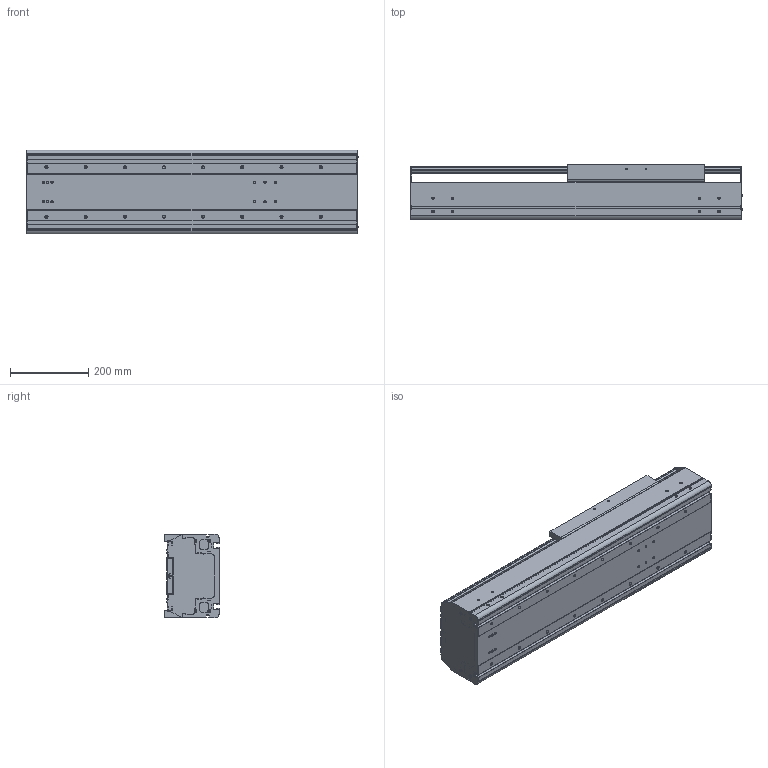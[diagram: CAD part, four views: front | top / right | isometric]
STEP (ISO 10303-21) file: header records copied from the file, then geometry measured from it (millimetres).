
FILE_DESCRIPTION((''),'2;1');
FILE_NAME('BE60G-ST-L_B-35_IGS_PRT','2017-06-18T',(' '),(''),'PRO/ENGINEER BY PARAMETRIC TECHNOLOGY CORPORATION, 2015030','PRO/ENGINEER BY PARAMETRIC TECHNOLOGY CORPORATION, 2015030','');
FILE_SCHEMA(('CONFIG_CONTROL_DESIGN'));
Length unit declared in the file: millimetre
Products named in the file (1): BE60G-ST-L_B-35_IGS_PRT
Bounding box: 847.4 x 140 x 214 mm (x, y, z)
Volume: 7682381.3 mm3; surface area: 1986863.2 mm2
Topology: 2 solids, 114 shells, 1412 faces, 3892 edges, 2546 vertices
Faces by surface type: cylinder 688, plane 584, cone 92, sphere 24, torus 24
Entity records: 46428 total; most frequent: CARTESIAN_POINT 10014, DIRECTION 7738, ORIENTED_EDGE 7168, EDGE_CURVE 3804, AXIS2_PLACEMENT_3D 2855, VERTEX_POINT 2546, VECTOR 2028, LINE 2028
